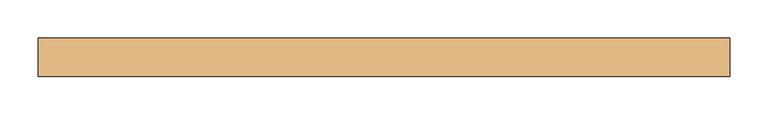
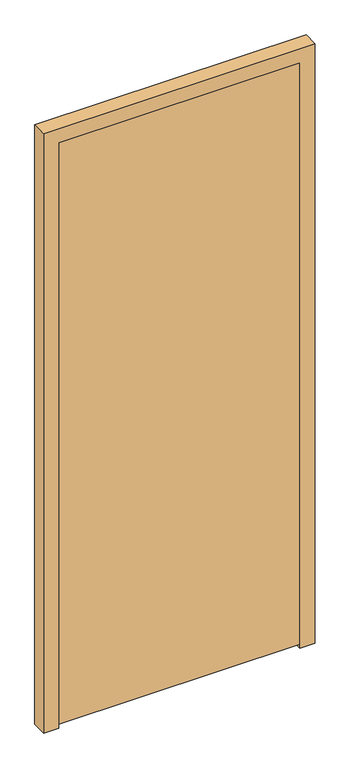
"""IFC4 building model written with IfcOpenShell, lengths in millimetres: door geometry, Dr_Дверь_v2.1 : ДВДГ 21-9_выполняется собственником."""

from ifc_helpers import new_model, si_unit, frame, origin, place, context, project, spatial, polyline, outline, extrude, source, transform, mapped, element, save


def door_0d53e0d2(model_context):
    return source(origin(), model_context, "Body", "SweptSolid", [
        extrude(outline(polyline([(0.0, -325.0), (0.0, -275.0), (2050.0, -275.0), (2050.0, 525.0), (0.0, 525.0), (0.0, 575.0), (2100.0, 575.0), (2100.0, -325.0), (0.0, -325.0)])), frame((0.0, 12.5, 0.0), z_axis=(0.0, 1.0, 0.0), x_axis=(0.0, 0.0, 1.0)), (0.0, 0.0, 1.0), 50.0),
        extrude(outline(polyline([(-275.0, 42.5), (525.0, 42.5), (525.0, 12.5), (-275.0, 12.5), (-275.0, 42.5)])), frame((0.0, 0.0, 14.0), z_axis=(0.0, 0.0, 1.0), x_axis=(1.0, 0.0, 0.0)), (0.0, 0.0, 1.0), 2036.0),
    ])


if __name__ == "__main__":
    model = new_model("IFC4")
    model_context = context("Model", 3, world=origin())
    ifc_project = project(units=[si_unit("LENGTHUNIT", "METRE", prefix="MILLI")], contexts=[model_context])
    site = spatial("IfcSite", under=ifc_project)
    building = spatial("IfcBuilding", under=site)
    placement = place(None, origin())
    door_shape = door_0d53e0d2(model_context)
    element("IfcDoor", 1, ObjectType="Dr_Дверь_v2.1 : ДВДГ 21-9_выполняется собственником", at=placement, inside=building, context=model_context, shape_type="MappedRepresentation", body=[
        mapped(door_shape, transform((0.0, 0.0, 0.0), x_axis=(1.0, 0.0, 0.0), y_axis=(0.0, 1.0, 0.0), z_axis=(0.0, 0.0, 1.0))),
    ])
    save(model, "model.ifc")
